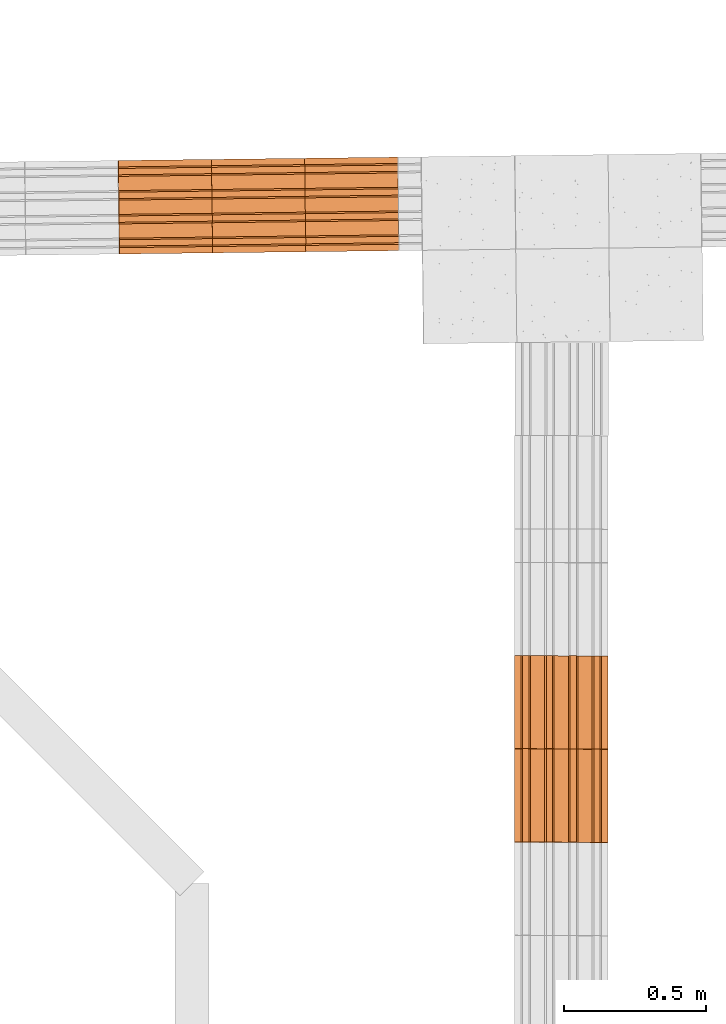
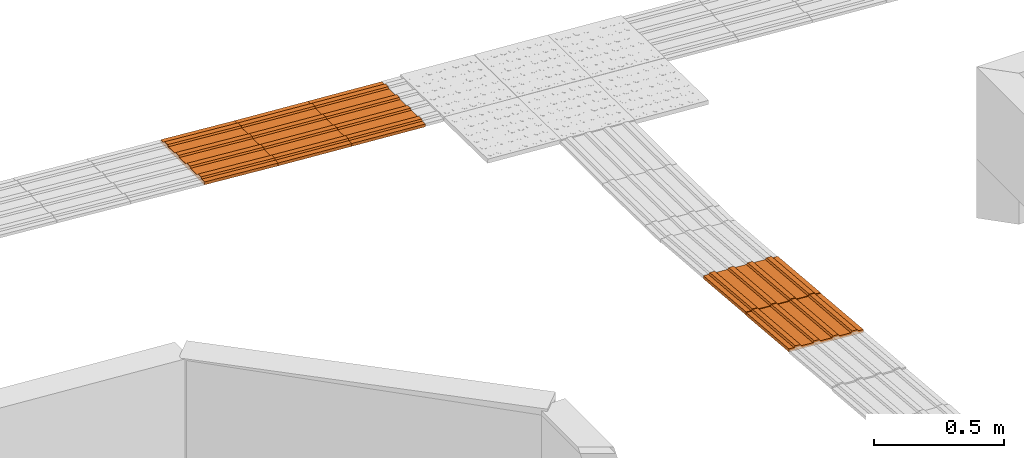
# One storey, part 206 of 237: 5 proxies.
"""IFC2X3 building model written with IfcOpenShell, lengths in millimetres."""

from ifc_helpers import new_model, entity, si_unit, converted_unit, derived_unit, money_unit, direction, frame, origin_with_axes, place, context, subcontext, project, spatial, open_shell, surface_model, source, transform, mapped, type_object, element, save


model = new_model("IFC2X3")

# Units and contexts
model_context = context("Model", 3, precision=0.01, world=origin_with_axes(), true_north=direction((0.0, 1.0)))
body_context = subcontext(model_context, "Body", "Model", "MODEL_VIEW")
ifc_project = project(units=[si_unit("LENGTHUNIT", "METRE", prefix="MILLI"), si_unit("AREAUNIT", "SQUARE_METRE"), si_unit("VOLUMEUNIT", "CUBIC_METRE"), converted_unit("PLANEANGLEUNIT", "DEGREE", entity("IfcPlaneAngleMeasure", 0.0174532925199), si_unit("PLANEANGLEUNIT", "RADIAN"), dimensions=[0, 0, 0, 0, 0, 0, 0]), money_unit("USD"), converted_unit("TIMEUNIT", "Year", entity("IfcTimeMeasure", 31556926.0), si_unit("TIMEUNIT", "SECOND"), dimensions=[0, 0, 1, 0, 0, 0, 0]), si_unit("MASSUNIT", "GRAM", prefix="KILO"), si_unit("THERMODYNAMICTEMPERATUREUNIT", "DEGREE_CELSIUS"), si_unit("LUMINOUSINTENSITYUNIT", "LUMEN"), si_unit("ENERGYUNIT", "JOULE", prefix="MEGA"), derived_unit("THERMALCONDUCTANCEUNIT", [(si_unit("POWERUNIT", "WATT"), 1), (si_unit("LENGTHUNIT", "METRE"), -1), (si_unit("THERMODYNAMICTEMPERATUREUNIT", "KELVIN"), -1)]), derived_unit("SPECIFICHEATCAPACITYUNIT", [(si_unit("ENERGYUNIT", "JOULE"), 1), (si_unit("MASSUNIT", "GRAM", prefix="KILO"), -1), (si_unit("THERMODYNAMICTEMPERATUREUNIT", "KELVIN"), -1)]), derived_unit("MASSDENSITYUNIT", [(si_unit("MASSUNIT", "GRAM", prefix="KILO"), 1), (si_unit("VOLUMEUNIT", "CUBIC_METRE"), -1)])], contexts=[model_context])

# Site, building, storey
site_placement = place(None, origin_with_axes())
site = spatial("IfcSite", under=ifc_project, at=site_placement, Name="Local", CompositionType="ELEMENT")
building_placement = place(site_placement, origin_with_axes())
building = spatial("IfcBuilding", under=site, at=building_placement, Name="Construção", CompositionType="ELEMENT")
storey_placement = place(building_placement, origin_with_axes())
storey = spatial("IfcBuildingStorey", under=building, at=storey_placement, Name="Pavimento Térreo", CompositionType="ELEMENT", Elevation=0.0)

# Proxies
building_element_proxy_type = type_object("IfcBuildingElementProxyType", Name="Piso Direcional 27", PredefinedType="NOTDEFINED")
shared_shape_1 = source(origin_with_axes(), body_context, "Body", "SurfaceModel", [
    surface_model("IfcShellBasedSurfaceModel", [(-0.316074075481, -47.258225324, 4.01610191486), (328.666646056, -47.258225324, 29.907603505), (328.143585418, -41.665004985, 36.5537190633), (-0.839134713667, -41.665004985, 10.6622174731)], [open_shell([[[0, 1, 2, 3]]])]),
    surface_model("IfcShellBasedSurfaceModel", [(329.712767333, -153.529411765, 16.6153723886), (329.712767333, 176.470588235, 16.6153723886), (328.666646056, 176.470588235, 29.907603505), (328.666646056, 154.097706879, 29.907603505), (328.143585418, 148.50448654, 36.5537190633), (328.143585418, 126.131605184, 36.5537190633), (328.666646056, 120.538384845, 29.907603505), (328.666646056, 70.1994017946, 29.907603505), (328.143585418, 64.6061814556, 36.5537190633), (328.143585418, 42.2333000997, 36.5537190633), (328.666646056, 36.6400797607, 29.907603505), (328.666646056, -13.6989032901, 29.907603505), (328.143585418, -19.2921236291, 36.5537190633), (328.143585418, -41.665004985, 36.5537190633), (328.666646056, -47.258225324, 29.907603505), (328.666646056, -97.5972083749, 29.907603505), (328.143585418, -103.190428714, 36.5537190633), (328.143585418, -125.56331007, 36.5537190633), (328.666646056, -131.156530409, 29.907603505), (328.666646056, -153.529411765, 29.907603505)], [open_shell([[[0, 1, 2, 3, 4, 5, 6, 7, 8, 9, 10, 11, 12, 13, 14, 15, 16, 17, 18, 19]]])]),
    surface_model("IfcShellBasedSurfaceModel", [(-0.839134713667, -19.2921236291, 10.6622174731), (328.143585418, -19.2921236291, 36.5537190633), (328.666646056, -13.6989032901, 29.907603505), (-0.316074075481, -13.6989032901, 4.01610191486)], [open_shell([[[0, 1, 2, 3]]])]),
    surface_model("IfcShellBasedSurfaceModel", [(-0.839134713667, -103.190428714, 10.6622174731), (328.143585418, -103.190428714, 36.5537190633), (328.666646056, -97.5972083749, 29.907603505), (-0.316074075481, -97.5972083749, 4.01610191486)], [open_shell([[[0, 1, 2, 3]]])]),
    surface_model("IfcShellBasedSurfaceModel", [(-0.839134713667, 64.6061814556, 10.6622174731), (328.143585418, 64.6061814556, 36.5537190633), (328.666646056, 70.1994017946, 29.907603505), (-0.316074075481, 70.1994017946, 4.01610191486)], [open_shell([[[0, 1, 2, 3]]])]),
    surface_model("IfcShellBasedSurfaceModel", [(-0.316074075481, 36.6400797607, 4.01610191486), (328.666646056, 36.6400797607, 29.907603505), (328.143585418, 42.2333000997, 36.5537190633), (-0.839134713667, 42.2333000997, 10.6622174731)], [open_shell([[[0, 1, 2, 3]]])]),
    surface_model("IfcShellBasedSurfaceModel", [(-0.316074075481, -131.156530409, 4.01610191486), (328.666646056, -131.156530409, 29.907603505), (328.143585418, -125.56331007, 36.5537190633), (-0.839134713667, -125.56331007, 10.6622174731)], [open_shell([[[0, 1, 2, 3]]])]),
    surface_model("IfcShellBasedSurfaceModel", [(-0.316074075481, 176.470588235, 4.01610191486), (-0.316074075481, 154.097706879, 4.01610191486), (328.666646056, 154.097706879, 29.907603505), (328.666646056, 176.470588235, 29.907603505)], [open_shell([[[0, 1, 2, 3]]])]),
    surface_model("IfcShellBasedSurfaceModel", [(-0.316074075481, 120.538384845, 4.01610191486), (328.666646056, 120.538384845, 29.907603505), (328.143585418, 126.131605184, 36.5537190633), (-0.839134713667, 126.131605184, 10.6622174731)], [open_shell([[[0, 1, 2, 3]]])]),
    surface_model("IfcShellBasedSurfaceModel", [(-0.839134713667, 148.50448654, 10.6622174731), (328.143585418, 148.50448654, 36.5537190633), (328.666646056, 154.097706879, 29.907603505), (-0.316074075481, 154.097706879, 4.01610191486)], [open_shell([[[0, 1, 2, 3]]])]),
    surface_model("IfcShellBasedSurfaceModel", [(-0.316074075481, 36.6400797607, 4.01610191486), (-0.316074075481, -13.6989032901, 4.01610191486), (328.666646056, -13.6989032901, 29.907603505), (328.666646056, 36.6400797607, 29.907603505)], [open_shell([[[0, 1, 2, 3]]])]),
    surface_model("IfcShellBasedSurfaceModel", [(-0.316074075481, 120.538384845, 4.01610191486), (-0.316074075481, 70.1994017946, 4.01610191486), (328.666646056, 70.1994017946, 29.907603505), (328.666646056, 120.538384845, 29.907603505)], [open_shell([[[0, 1, 2, 3]]])]),
    surface_model("IfcShellBasedSurfaceModel", [(-0.839134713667, 148.50448654, 10.6622174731), (-0.839134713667, 126.131605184, 10.6622174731), (328.143585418, 126.131605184, 36.5537190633), (328.143585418, 148.50448654, 36.5537190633)], [open_shell([[[0, 1, 2, 3]]])]),
    surface_model("IfcShellBasedSurfaceModel", [(-0.316074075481, 120.538384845, 4.01610191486), (-0.839134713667, 126.131605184, 10.6622174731), (-0.839134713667, 148.50448654, 10.6622174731), (-0.316074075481, 154.097706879, 4.01610191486), (-0.316074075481, 176.470588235, 4.01610191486), (0.73004720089, 176.470588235, -9.27612920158), (0.73004720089, -153.529411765, -9.27612920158), (-0.316074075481, -153.529411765, 4.01610191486), (-0.316074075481, -131.156530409, 4.01610191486), (-0.839134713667, -125.56331007, 10.6622174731), (-0.839134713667, -103.190428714, 10.6622174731), (-0.316074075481, -97.5972083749, 4.01610191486), (-0.316074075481, -47.258225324, 4.01610191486), (-0.839134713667, -41.665004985, 10.6622174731), (-0.839134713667, -19.2921236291, 10.6622174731), (-0.316074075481, -13.6989032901, 4.01610191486), (-0.316074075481, 36.6400797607, 4.01610191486), (-0.839134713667, 42.2333000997, 10.6622174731), (-0.839134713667, 64.6061814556, 10.6622174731), (-0.316074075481, 70.1994017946, 4.01610191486)], [open_shell([[[0, 1, 2, 3, 4, 5, 6, 7, 8, 9, 10, 11, 12, 13, 14, 15, 16, 17, 18, 19]]])]),
    surface_model("IfcShellBasedSurfaceModel", [(328.143585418, -41.665004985, 36.5537190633), (328.143585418, -19.2921236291, 36.5537190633), (-0.839134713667, -19.2921236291, 10.6622174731), (-0.839134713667, -41.665004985, 10.6622174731)], [open_shell([[[0, 1, 2, 3]]])]),
    surface_model("IfcShellBasedSurfaceModel", [(-0.316074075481, -47.258225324, 4.01610191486), (-0.316074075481, -97.5972083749, 4.01610191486), (328.666646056, -97.5972083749, 29.907603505), (328.666646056, -47.258225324, 29.907603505)], [open_shell([[[0, 1, 2, 3]]])]),
    surface_model("IfcShellBasedSurfaceModel", [(328.143585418, 42.2333000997, 36.5537190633), (328.143585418, 64.6061814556, 36.5537190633), (-0.839134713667, 64.6061814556, 10.6622174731), (-0.839134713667, 42.2333000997, 10.6622174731)], [open_shell([[[0, 1, 2, 3]]])]),
    surface_model("IfcShellBasedSurfaceModel", [(328.143585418, -125.56331007, 36.5537190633), (328.143585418, -103.190428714, 36.5537190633), (-0.839134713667, -103.190428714, 10.6622174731), (-0.839134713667, -125.56331007, 10.6622174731)], [open_shell([[[0, 1, 2, 3]]])]),
    surface_model("IfcShellBasedSurfaceModel", [(329.712767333, 176.470588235, 16.6153723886), (0.73004720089, 176.470588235, -9.27612920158), (-0.316074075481, 176.470588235, 4.01610191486), (328.666646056, 176.470588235, 29.907603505)], [open_shell([[[0, 1, 2, 3]]])]),
    surface_model("IfcShellBasedSurfaceModel", [(329.712767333, -153.529411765, 16.6153723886), (0.73004720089, -153.529411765, -9.27612920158), (0.73004720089, 176.470588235, -9.27612920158), (329.712767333, 176.470588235, 16.6153723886)], [open_shell([[[0, 1, 2, 3]]])]),
    surface_model("IfcShellBasedSurfaceModel", [(328.666646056, -153.529411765, 29.907603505), (328.666646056, -131.156530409, 29.907603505), (-0.316074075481, -131.156530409, 4.01610191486), (-0.316074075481, -153.529411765, 4.01610191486)], [open_shell([[[0, 1, 2, 3]]])]),
    surface_model("IfcShellBasedSurfaceModel", [(0.73004720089, -153.529411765, -9.27612920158), (329.712767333, -153.529411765, 16.6153723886), (328.666646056, -153.529411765, 29.907603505), (-0.316074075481, -153.529411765, 4.01610191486)], [open_shell([[[0, 1, 2, 3]]])]),
])
for number, where, z_axis, x_axis, name in (
    (1, (134453.55104, 37679.4352642, -8059.0036777), (0.0, 0.0, 1.0), (-0.999926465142, -0.012127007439, 0.0), "Objeto-0055"),
    (2, (134782.509565, 37683.4251079, -8084.89517929), (0.0, 0.0, 1.0), (-0.999926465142, -0.012127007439, 0.0), "Objeto-0055"),
):
    element("IfcBuildingElementProxy", number, at=place(storey_placement, frame(where, z_axis=z_axis, x_axis=x_axis)), inside=storey, type_object=building_element_proxy_type, Name=name, context=body_context, shape_type="MappedRepresentation", body=[
        mapped(shared_shape_1, transform((0.0, 0.0, 0.0))),
    ])
shared_shape_2 = source(origin_with_axes(), body_context, "Body", "SurfaceModel", [
    surface_model("IfcShellBasedSurfaceModel", [(-0.351108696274, -47.258225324, 4.01319076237), (328.393141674, -47.258225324, 32.7745858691), (327.812103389, -41.665004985, 39.4158838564), (-0.932146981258, -41.665004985, 10.6544887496)], [open_shell([[[0, 1, 2, 3]]])]),
    surface_model("IfcShellBasedSurfaceModel", [(329.555218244, -153.529411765, 19.4919898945), (329.555218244, 176.470588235, 19.4919898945), (328.393141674, 176.470588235, 32.7745858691), (328.393141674, 154.097706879, 32.7745858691), (327.812103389, 148.50448654, 39.4158838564), (327.812103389, 126.131605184, 39.4158838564), (328.393141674, 120.538384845, 32.7745858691), (328.393141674, 70.1994017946, 32.7745858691), (327.812103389, 64.6061814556, 39.4158838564), (327.812103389, 42.2333000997, 39.4158838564), (328.393141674, 36.6400797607, 32.7745858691), (328.393141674, -13.6989032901, 32.7745858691), (327.812103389, -19.2921236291, 39.4158838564), (327.812103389, -41.665004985, 39.4158838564), (328.393141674, -47.258225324, 32.7745858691), (328.393141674, -97.5972083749, 32.7745858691), (327.812103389, -103.190428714, 39.4158838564), (327.812103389, -125.56331007, 39.4158838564), (328.393141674, -131.156530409, 32.7745858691), (328.393141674, -153.529411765, 32.7745858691)], [open_shell([[[0, 1, 2, 3, 4, 5, 6, 7, 8, 9, 10, 11, 12, 13, 14, 15, 16, 17, 18, 19]]])]),
    surface_model("IfcShellBasedSurfaceModel", [(-0.932146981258, -19.2921236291, 10.6544887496), (327.812103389, -19.2921236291, 39.4158838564), (328.393141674, -13.6989032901, 32.7745858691), (-0.351108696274, -13.6989032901, 4.01319076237)], [open_shell([[[0, 1, 2, 3]]])]),
    surface_model("IfcShellBasedSurfaceModel", [(-0.932146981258, -103.190428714, 10.6544887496), (327.812103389, -103.190428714, 39.4158838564), (328.393141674, -97.5972083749, 32.7745858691), (-0.351108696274, -97.5972083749, 4.01319076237)], [open_shell([[[0, 1, 2, 3]]])]),
    surface_model("IfcShellBasedSurfaceModel", [(-0.932146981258, 64.6061814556, 10.6544887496), (327.812103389, 64.6061814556, 39.4158838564), (328.393141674, 70.1994017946, 32.7745858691), (-0.351108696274, 70.1994017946, 4.01319076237)], [open_shell([[[0, 1, 2, 3]]])]),
    surface_model("IfcShellBasedSurfaceModel", [(-0.351108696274, 36.6400797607, 4.01319076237), (328.393141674, 36.6400797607, 32.7745858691), (327.812103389, 42.2333000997, 39.4158838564), (-0.932146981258, 42.2333000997, 10.6544887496)], [open_shell([[[0, 1, 2, 3]]])]),
    surface_model("IfcShellBasedSurfaceModel", [(-0.351108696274, -131.156530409, 4.01319076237), (328.393141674, -131.156530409, 32.7745858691), (327.812103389, -125.56331007, 39.4158838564), (-0.932146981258, -125.56331007, 10.6544887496)], [open_shell([[[0, 1, 2, 3]]])]),
    surface_model("IfcShellBasedSurfaceModel", [(-0.351108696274, 176.470588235, 4.01319076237), (-0.351108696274, 154.097706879, 4.01319076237), (328.393141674, 154.097706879, 32.7745858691), (328.393141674, 176.470588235, 32.7745858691)], [open_shell([[[0, 1, 2, 3]]])]),
    surface_model("IfcShellBasedSurfaceModel", [(-0.351108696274, 120.538384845, 4.01319076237), (328.393141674, 120.538384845, 32.7745858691), (327.812103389, 126.131605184, 39.4158838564), (-0.932146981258, 126.131605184, 10.6544887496)], [open_shell([[[0, 1, 2, 3]]])]),
    surface_model("IfcShellBasedSurfaceModel", [(-0.932146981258, 148.50448654, 10.6544887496), (327.812103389, 148.50448654, 39.4158838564), (328.393141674, 154.097706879, 32.7745858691), (-0.351108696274, 154.097706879, 4.01319076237)], [open_shell([[[0, 1, 2, 3]]])]),
    surface_model("IfcShellBasedSurfaceModel", [(-0.351108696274, 36.6400797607, 4.01319076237), (-0.351108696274, -13.6989032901, 4.01319076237), (328.393141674, -13.6989032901, 32.7745858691), (328.393141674, 36.6400797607, 32.7745858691)], [open_shell([[[0, 1, 2, 3]]])]),
    surface_model("IfcShellBasedSurfaceModel", [(-0.351108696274, 120.538384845, 4.01319076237), (-0.351108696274, 70.1994017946, 4.01319076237), (328.393141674, 70.1994017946, 32.7745858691), (328.393141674, 120.538384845, 32.7745858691)], [open_shell([[[0, 1, 2, 3]]])]),
    surface_model("IfcShellBasedSurfaceModel", [(-0.932146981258, 148.50448654, 10.6544887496), (-0.932146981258, 126.131605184, 10.6544887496), (327.812103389, 126.131605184, 39.4158838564), (327.812103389, 148.50448654, 39.4158838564)], [open_shell([[[0, 1, 2, 3]]])]),
    surface_model("IfcShellBasedSurfaceModel", [(-0.351108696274, 120.538384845, 4.01319076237), (-0.932146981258, 126.131605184, 10.6544887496), (-0.932146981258, 148.50448654, 10.6544887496), (-0.351108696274, 154.097706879, 4.01319076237), (-0.351108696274, 176.470588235, 4.01319076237), (0.810967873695, 176.470588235, -9.26940521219), (0.810967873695, -153.529411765, -9.26940521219), (-0.351108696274, -153.529411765, 4.01319076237), (-0.351108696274, -131.156530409, 4.01319076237), (-0.932146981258, -125.56331007, 10.6544887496), (-0.932146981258, -103.190428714, 10.6544887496), (-0.351108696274, -97.5972083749, 4.01319076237), (-0.351108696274, -47.258225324, 4.01319076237), (-0.932146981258, -41.665004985, 10.6544887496), (-0.932146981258, -19.2921236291, 10.6544887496), (-0.351108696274, -13.6989032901, 4.01319076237), (-0.351108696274, 36.6400797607, 4.01319076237), (-0.932146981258, 42.2333000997, 10.6544887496), (-0.932146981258, 64.6061814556, 10.6544887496), (-0.351108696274, 70.1994017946, 4.01319076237)], [open_shell([[[0, 1, 2, 3, 4, 5, 6, 7, 8, 9, 10, 11, 12, 13, 14, 15, 16, 17, 18, 19]]])]),
    surface_model("IfcShellBasedSurfaceModel", [(327.812103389, -41.665004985, 39.4158838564), (327.812103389, -19.2921236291, 39.4158838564), (-0.932146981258, -19.2921236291, 10.6544887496), (-0.932146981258, -41.665004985, 10.6544887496)], [open_shell([[[0, 1, 2, 3]]])]),
    surface_model("IfcShellBasedSurfaceModel", [(-0.351108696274, -47.258225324, 4.01319076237), (-0.351108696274, -97.5972083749, 4.01319076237), (328.393141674, -97.5972083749, 32.7745858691), (328.393141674, -47.258225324, 32.7745858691)], [open_shell([[[0, 1, 2, 3]]])]),
    surface_model("IfcShellBasedSurfaceModel", [(327.812103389, 42.2333000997, 39.4158838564), (327.812103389, 64.6061814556, 39.4158838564), (-0.932146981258, 64.6061814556, 10.6544887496), (-0.932146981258, 42.2333000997, 10.6544887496)], [open_shell([[[0, 1, 2, 3]]])]),
    surface_model("IfcShellBasedSurfaceModel", [(327.812103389, -125.56331007, 39.4158838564), (327.812103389, -103.190428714, 39.4158838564), (-0.932146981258, -103.190428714, 10.6544887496), (-0.932146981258, -125.56331007, 10.6544887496)], [open_shell([[[0, 1, 2, 3]]])]),
    surface_model("IfcShellBasedSurfaceModel", [(329.555218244, 176.470588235, 19.4919898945), (0.810967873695, 176.470588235, -9.26940521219), (-0.351108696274, 176.470588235, 4.01319076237), (328.393141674, 176.470588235, 32.7745858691)], [open_shell([[[0, 1, 2, 3]]])]),
    surface_model("IfcShellBasedSurfaceModel", [(329.555218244, -153.529411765, 19.4919898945), (0.810967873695, -153.529411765, -9.26940521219), (0.810967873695, 176.470588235, -9.26940521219), (329.555218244, 176.470588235, 19.4919898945)], [open_shell([[[0, 1, 2, 3]]])]),
    surface_model("IfcShellBasedSurfaceModel", [(328.393141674, -153.529411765, 32.7745858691), (328.393141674, -131.156530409, 32.7745858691), (-0.351108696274, -131.156530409, 4.01319076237), (-0.351108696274, -153.529411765, 4.01319076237)], [open_shell([[[0, 1, 2, 3]]])]),
    surface_model("IfcShellBasedSurfaceModel", [(0.810967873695, -153.529411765, -9.26940521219), (329.555218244, -153.529411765, 19.4919898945), (328.393141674, -153.529411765, 32.7745858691), (-0.351108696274, -153.529411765, 4.01319076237)], [open_shell([[[0, 1, 2, 3]]])]),
])
proxy_placement = place(storey_placement, frame((134124.499509, 37675.4442926, -8033.10444739), z_axis=(0.0, 0.0, 1.0), x_axis=(-0.999926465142, -0.012127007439, 0.0)))
element("IfcBuildingElementProxy", 3, at=proxy_placement, inside=storey, type_object=building_element_proxy_type, Name="Objeto-0055", context=body_context, shape_type="MappedRepresentation", body=[
    mapped(shared_shape_2, transform((0.0, 0.0, 0.0))),
])
shared_shape_3 = source(origin_with_axes(), body_context, "Body", "SurfaceModel", [
    surface_model("IfcShellBasedSurfaceModel", [(-0.637568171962, -46.8620912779, 7.2874375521), (328.106682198, -46.8620912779, 36.0488326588), (327.561064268, -40.8174525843, 42.2852741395), (-1.18318610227, -40.8174525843, 13.5238790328)], [open_shell([[[0, 1, 2, 3]]])]),
    surface_model("IfcShellBasedSurfaceModel", [(328.61983349, -153.804492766, 30.1834865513), (330.626126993, 175.39164382, 7.25144688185), (329.466881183, 176.321730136, 20.5016871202), (329.330861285, 154.003347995, 22.0564016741), (328.717233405, 148.888795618, 29.0702004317), (328.581213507, 126.570413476, 30.6249149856), (329.126831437, 120.525774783, 24.3884735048), (328.820786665, 70.3094149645, 27.886581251), (328.207158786, 65.1948625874, 34.9003800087), (328.071138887, 42.876480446, 36.4550945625), (328.616756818, 36.8318417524, 30.2186530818), (328.310712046, -13.3845180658, 33.716760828), (327.697084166, -18.4990704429, 40.7305595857), (327.561064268, -40.8174525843, 42.2852741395), (328.106682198, -46.8620912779, 36.0488326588), (327.800637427, -97.0784510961, 39.546940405), (327.187009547, -102.193003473, 46.5607391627), (327.050989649, -124.511385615, 48.1154537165), (327.596607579, -130.556024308, 41.8790122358), (327.460587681, -152.87440645, 43.4337267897)], [open_shell([[[0, 1, 2, 3, 4, 5, 6, 7, 8, 9, 10, 11, 12, 13, 14, 15, 16, 17, 18, 19]]])]),
    surface_model("IfcShellBasedSurfaceModel", [(-1.04716620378, -18.4990704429, 11.9691644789), (327.697084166, -18.4990704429, 40.7305595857), (328.310712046, -13.3845180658, 33.716760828), (-0.433538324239, -13.3845180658, 4.9553657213)], [open_shell([[[0, 1, 2, 3]]])]),
    surface_model("IfcShellBasedSurfaceModel", [(-1.55724082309, -102.193003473, 17.7993440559), (327.187009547, -102.193003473, 46.5607391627), (327.800637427, -97.0784510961, 39.546940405), (-0.943612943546, -97.0784510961, 10.7855452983)], [open_shell([[[0, 1, 2, 3]]])]),
    surface_model("IfcShellBasedSurfaceModel", [(-0.537091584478, 65.1948625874, 6.13898490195), (328.207158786, 65.1948625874, 34.9003800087), (328.820786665, 70.3094149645, 27.886581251), (0.0765362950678, 70.3094149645, -0.874813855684)], [open_shell([[[0, 1, 2, 3]]])]),
    surface_model("IfcShellBasedSurfaceModel", [(-0.127493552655, 36.8318417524, 1.45725797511), (328.616756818, 36.8318417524, 30.2186530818), (328.071138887, 42.876480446, 36.4550945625), (-0.67311148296, 42.876480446, 7.69369945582)], [open_shell([[[0, 1, 2, 3]]])]),
    surface_model("IfcShellBasedSurfaceModel", [(-1.14764279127, -130.556024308, 13.1176171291), (327.596607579, -130.556024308, 41.8790122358), (327.050989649, -124.511385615, 48.1154537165), (-1.69326072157, -124.511385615, 19.3540586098)], [open_shell([[[0, 1, 2, 3]]])]),
    surface_model("IfcShellBasedSurfaceModel", [(0.722630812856, 176.321730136, -8.25970798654), (0.586610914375, 154.003347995, -6.70499343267), (329.330861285, 154.003347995, 22.0564016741), (329.466881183, 176.321730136, 20.5016871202)], [open_shell([[[0, 1, 2, 3]]])]),
    surface_model("IfcShellBasedSurfaceModel", [(0.382581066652, 120.525774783, -4.37292160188), (329.126831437, 120.525774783, 24.3884735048), (328.581213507, 126.570413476, 30.6249149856), (-0.163036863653, 126.570413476, 1.86351987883)], [open_shell([[[0, 1, 2, 3]]])]),
    surface_model("IfcShellBasedSurfaceModel", [(-0.0270169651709, 148.888795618, 0.308805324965), (328.717233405, 148.888795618, 29.0702004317), (329.330861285, 154.003347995, 22.0564016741), (0.586610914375, 154.003347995, -6.70499343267)], [open_shell([[[0, 1, 2, 3]]])]),
    surface_model("IfcShellBasedSurfaceModel", [(-0.127493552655, 36.8318417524, 1.45725797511), (-0.433538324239, -13.3845180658, 4.9553657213), (328.310712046, -13.3845180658, 33.716760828), (328.616756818, 36.8318417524, 30.2186530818)], [open_shell([[[0, 1, 2, 3]]])]),
    surface_model("IfcShellBasedSurfaceModel", [(0.382581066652, 120.525774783, -4.37292160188), (0.0765362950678, 70.3094149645, -0.874813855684), (328.820786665, 70.3094149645, 27.886581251), (329.126831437, 120.525774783, 24.3884735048)], [open_shell([[[0, 1, 2, 3]]])]),
    surface_model("IfcShellBasedSurfaceModel", [(-0.0270169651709, 148.888795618, 0.308805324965), (-0.163036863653, 126.570413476, 1.86351987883), (328.581213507, 126.570413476, 30.6249149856), (328.717233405, 148.888795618, 29.0702004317)], [open_shell([[[0, 1, 2, 3]]])]),
    surface_model("IfcShellBasedSurfaceModel", [(0.382581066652, 120.525774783, -4.37292160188), (-0.163036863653, 126.570413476, 1.86351987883), (-0.0270169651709, 148.888795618, 0.308805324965), (0.586610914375, 154.003347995, -6.70499343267), (0.722630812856, 176.321730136, -8.25970798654), (1.88187662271, 175.39164382, -21.5099482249), (-0.1244168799, -153.804492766, 1.42209144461), (-1.28366268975, -152.87440645, 14.672331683), (-1.14764279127, -130.556024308, 13.1176171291), (-1.69326072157, -124.511385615, 19.3540586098), (-1.55724082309, -102.193003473, 17.7993440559), (-0.943612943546, -97.0784510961, 10.7855452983), (-0.637568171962, -46.8620912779, 7.2874375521), (-1.18318610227, -40.8174525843, 13.5238790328), (-1.04716620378, -18.4990704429, 11.9691644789), (-0.433538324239, -13.3845180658, 4.9553657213), (-0.127493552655, 36.8318417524, 1.45725797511), (-0.67311148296, 42.876480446, 7.69369945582), (-0.537091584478, 65.1948625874, 6.13898490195), (0.0765362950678, 70.3094149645, -0.874813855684)], [open_shell([[[0, 1, 2, 3, 4, 5, 6, 7, 8, 9, 10, 11, 12, 13, 14, 15, 16, 17, 18, 19]]])]),
    surface_model("IfcShellBasedSurfaceModel", [(327.561064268, -40.8174525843, 42.2852741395), (327.697084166, -18.4990704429, 40.7305595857), (-1.04716620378, -18.4990704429, 11.9691644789), (-1.18318610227, -40.8174525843, 13.5238790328)], [open_shell([[[0, 1, 2, 3]]])]),
    surface_model("IfcShellBasedSurfaceModel", [(-0.637568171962, -46.8620912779, 7.2874375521), (-0.943612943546, -97.0784510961, 10.7855452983), (327.800637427, -97.0784510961, 39.546940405), (328.106682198, -46.8620912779, 36.0488326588)], [open_shell([[[0, 1, 2, 3]]])]),
    surface_model("IfcShellBasedSurfaceModel", [(328.071138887, 42.876480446, 36.4550945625), (328.207158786, 65.1948625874, 34.9003800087), (-0.537091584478, 65.1948625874, 6.13898490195), (-0.67311148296, 42.876480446, 7.69369945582)], [open_shell([[[0, 1, 2, 3]]])]),
    surface_model("IfcShellBasedSurfaceModel", [(327.050989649, -124.511385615, 48.1154537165), (327.187009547, -102.193003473, 46.5607391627), (-1.55724082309, -102.193003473, 17.7993440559), (-1.69326072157, -124.511385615, 19.3540586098)], [open_shell([[[0, 1, 2, 3]]])]),
    surface_model("IfcShellBasedSurfaceModel", [(330.626126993, 175.39164382, 7.25144688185), (1.88187662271, 175.39164382, -21.5099482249), (0.722630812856, 176.321730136, -8.25970798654), (329.466881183, 176.321730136, 20.5016871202)], [open_shell([[[0, 1, 2, 3]]])]),
    surface_model("IfcShellBasedSurfaceModel", [(328.61983349, -153.804492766, 30.1834865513), (-0.1244168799, -153.804492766, 1.42209144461), (1.88187662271, 175.39164382, -21.5099482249), (330.626126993, 175.39164382, 7.25144688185)], [open_shell([[[0, 1, 2, 3]]])]),
    surface_model("IfcShellBasedSurfaceModel", [(327.460587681, -152.87440645, 43.4337267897), (327.596607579, -130.556024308, 41.8790122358), (-1.14764279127, -130.556024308, 13.1176171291), (-1.28366268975, -152.87440645, 14.672331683)], [open_shell([[[0, 1, 2, 3]]])]),
    surface_model("IfcShellBasedSurfaceModel", [(-0.1244168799, -153.804492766, 1.42209144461), (328.61983349, -153.804492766, 30.1834865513), (327.460587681, -152.87440645, 43.4337267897), (-1.28366268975, -152.87440645, 14.672331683)], [open_shell([[[0, 1, 2, 3]]])]),
])
for number, where, z_axis, x_axis, name in (
    (4, (135346.086311, 36076.4985534, -8083.61966123), (0.0, 0.0, 1.0), (0.0, -1.0, 0.0), "Objeto-0055"),
    (5, (135346.086311, 35746.9803537, -8057.00712634), (0.0, 0.0, 1.0), (0.0, -1.0, 0.0), "Objeto-0055"),
):
    element("IfcBuildingElementProxy", number, at=place(storey_placement, frame(where, z_axis=z_axis, x_axis=x_axis)), inside=storey, type_object=building_element_proxy_type, Name=name, context=body_context, shape_type="MappedRepresentation", body=[
        mapped(shared_shape_3, transform((0.0, 0.0, 0.0))),
    ])

save(model, "model.ifc")
